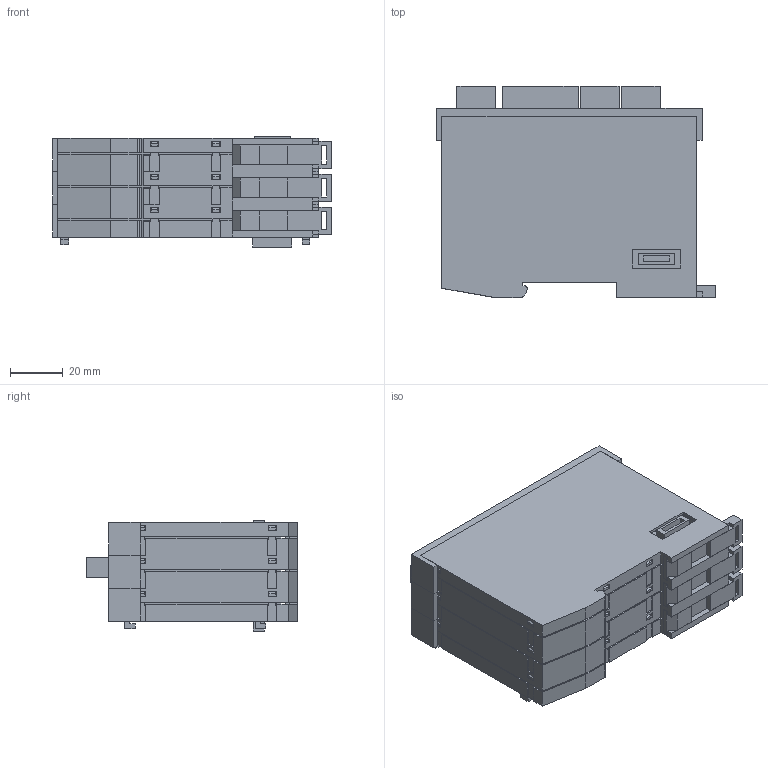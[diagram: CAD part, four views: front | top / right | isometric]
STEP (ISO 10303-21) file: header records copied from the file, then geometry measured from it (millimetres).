
FILE_DESCRIPTION (( 'STEP AP214' ), '1' );
FILE_NAME ('ST152 (20-014-152) Export20250320.STEP', '2025-03-20T16:12:35', ( '' ), ( '' ), 'SwSTEP 2.0', 'SolidWorks 2020', '' );
FILE_SCHEMA (( 'AUTOMOTIVE_DESIGN' ));
Length unit declared in the file: millimetre
Products named in the file (18): S-Dias Schale rechts_f Suport; BOHRNDK2_0MM_BOHRNDK2_0MM; SMDREF_1_2_SMDREF_1_2; Rasthaken S-Dias f Support; LP_ST152; S-Dias Schale links_f Suport_2x Durchbruch; Dummy_4110262172 4pol Stecker 1.5-6-st-3.5; S-Dias Zwischenstück Doppelmodul; Dummy_4080225345 Erni Buchse; Schieber_f Suport; Dummy_4110260022 8pol.Federkraftstecker 1reih. 1952322; Steckerabdeckung_Var 9_Support; ST152 (20-014-152) Export20250320; Dummy_4080225346 Erni Stift; S-Dias Doppelmodul Abdeckung Relais Support_RO051; 165400_v12; EXGNDPAD_SDIAS_EXGNDPAD_SDIAS; Capacitor 0603 h0,94
Assembly tree (25 placements, depth 3):
  BOHRNDK2_0MM_BOHRNDK2_0MM
  SMDREF_1_2_SMDREF_1_2
  ST152 (20-014-152) Export20250320
    S-Dias Schale links_f Suport_2x Durchbruch
    S-Dias Schale rechts_f Suport
    Schieber_f Suport  x2
    S-Dias Doppelmodul Abdeckung Relais Support_RO051
    S-Dias Zwischenstück Doppelmodul  x2
    Rasthaken S-Dias f Support  x3
    LP_ST152
      165400_v12
      Dummy_4110262172 4pol Stecker 1.5-6-st-3.5  x3
      Dummy_4110260022 8pol.Federkraftstecker 1reih. 1952322
      Dummy_4080225345 Erni Buchse
      Dummy_4080225346 Erni Stift
    Dummy_4080225346 Erni Stift
    Dummy_4080225345 Erni Buchse
    Steckerabdeckung_Var 9_Support  x5
  EXGNDPAD_SDIAS_EXGNDPAD_SDIAS
  Capacitor 0603 h0,94
Bounding box: 105.88 x 80.16 x 41.8 mm (x, y, z)
Volume: 57769.5 mm3; surface area: 82332.4 mm2
Topology: 26 solids, 26 shells, 1257 faces, 3480 edges, 2274 vertices
Faces by surface type: plane 1165, cylinder 44, cone 36, torus 12
Entity records: 25922 total; most frequent: CARTESIAN_POINT 4505, ORIENTED_EDGE 4388, DIRECTION 3934, EDGE_CURVE 2194, VECTOR 2048, LINE 2048, VERTEX_POINT 1434, AXIS2_PLACEMENT_3D 943
